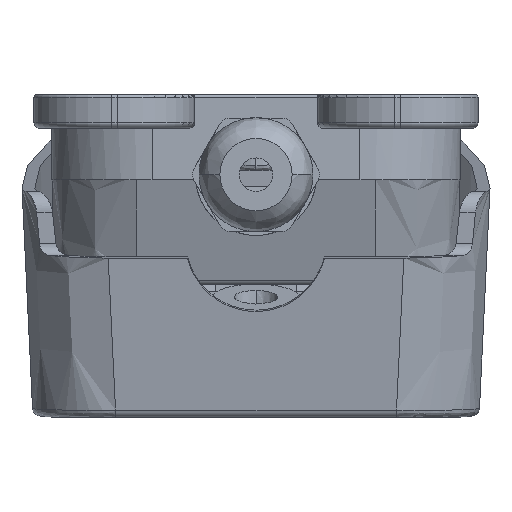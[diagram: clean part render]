
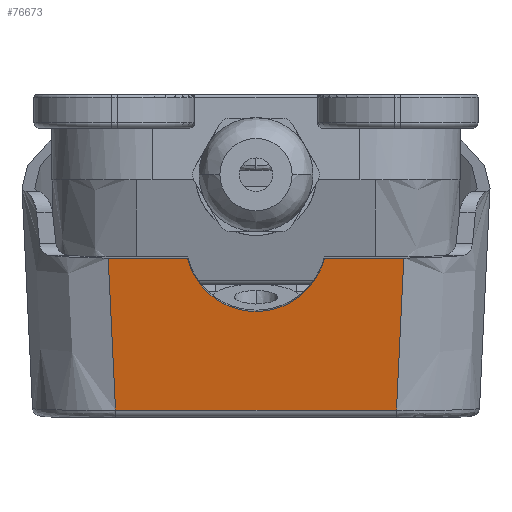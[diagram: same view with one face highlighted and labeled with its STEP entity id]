
A CAD part, front view. The second image highlights one B-rep face of the part: STEP entity #76673.
In plain terms, the highlighted planar face has unit normal (0, -0.99, -0.142) as drawn and (0.999, 0.038, 0) by its records, which use the part's own axes.
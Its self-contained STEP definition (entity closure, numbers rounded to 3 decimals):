
#12921=CARTESIAN_POINT('',(72.251,17.671,25.273));
#29018=DIRECTION('',(0.,0.,-1.));
#29019=VECTOR('',#29018,50.547);
#29020=CARTESIAN_POINT('',(72.251,17.671,25.273));
#29021=LINE('',#29020,#29019);
#29025=CARTESIAN_POINT('',(73.287,-9.925,-26.583));
#29026=CARTESIAN_POINT('',(73.172,-6.86,
-26.438));
#29027=CARTESIAN_POINT('',(72.942,-0.73,
-26.147));
#29028=CARTESIAN_POINT('',(72.597,8.468,
-25.711));
#29029=CARTESIAN_POINT('',(72.366,14.603,
-25.419));
#29030=CARTESIAN_POINT('',(72.251,17.671,
-25.273));
#29035=DIRECTION('',(0.,0.,1.));
#29036=VECTOR('',#29035,14.283);
#29037=CARTESIAN_POINT('',(73.287,-9.925,-26.583));
#29038=LINE('',#29037,#29036);
#29042=CARTESIAN_POINT('',(73.287,-9.925,-12.3));
#29043=CARTESIAN_POINT('',(73.267,-9.391,-12.172));
#29044=CARTESIAN_POINT('',(73.237,-8.585,-11.916));
#29045=CARTESIAN_POINT('',(73.19,-7.337,-11.403));
#29046=CARTESIAN_POINT('',(73.146,-6.179,-10.763));
#29047=CARTESIAN_POINT('',(73.105,-5.087,-9.994));
#29048=CARTESIAN_POINT('',(73.072,-4.196,-9.225));
#29049=CARTESIAN_POINT('',(73.044,-3.448,-8.456));
#29050=CARTESIAN_POINT('',(73.012,-2.602,-7.431));
#29051=CARTESIAN_POINT('',(72.981,-1.775,-6.15));
#29052=CARTESIAN_POINT('',(72.954,-1.058,-4.613));
#29053=CARTESIAN_POINT('',(72.93,-0.408,-2.563));
#29054=CARTESIAN_POINT('',(72.918,-0.103,0.));
#29055=CARTESIAN_POINT('',(72.93,-0.408,2.563));
#29056=CARTESIAN_POINT('',(72.954,-1.058,4.613));
#29057=CARTESIAN_POINT('',(72.981,-1.775,6.15));
#29058=CARTESIAN_POINT('',(73.012,-2.602,7.431));
#29059=CARTESIAN_POINT('',(73.044,-3.448,8.456));
#29060=CARTESIAN_POINT('',(73.072,-4.196,9.225));
#29061=CARTESIAN_POINT('',(73.105,-5.087,9.994));
#29062=CARTESIAN_POINT('',(73.146,-6.179,10.763));
#29063=CARTESIAN_POINT('',(73.19,-7.337,11.403));
#29064=CARTESIAN_POINT('',(73.237,-8.585,11.916));
#29065=CARTESIAN_POINT('',(73.267,-9.391,12.172));
#29066=CARTESIAN_POINT('',(73.287,-9.925,12.3));
#29071=DIRECTION('',(0.,0.,1.));
#29072=VECTOR('',#29071,14.283);
#29073=CARTESIAN_POINT('',(73.287,-9.925,12.3));
#29074=LINE('',#29073,#29072);
#29078=CARTESIAN_POINT('',(72.251,17.671,25.273));
#29079=CARTESIAN_POINT('',(72.366,14.603,25.419));
#29080=CARTESIAN_POINT('',(72.597,8.468,25.711));
#29081=CARTESIAN_POINT('',(72.942,-0.73,
26.147));
#29082=CARTESIAN_POINT('',(73.172,-6.86,
26.438));
#29083=CARTESIAN_POINT('',(73.287,-9.925,26.583));
#45084=VERTEX_POINT('',#29042);
#45085=VERTEX_POINT('',#29066);
#45088=CARTESIAN_POINT('',(73.287,-9.925,-26.583));
#45089=VERTEX_POINT('',#45088);
#45090=CARTESIAN_POINT('',(73.287,-9.925,26.583));
#45091=VERTEX_POINT('',#45090);
#45183=VERTEX_POINT('',#12921);
#45186=CARTESIAN_POINT('',(72.251,17.671,
-25.273));
#45187=VERTEX_POINT('',#45186);
#76658=CARTESIAN_POINT('',(72.203,18.958,50.55));
#76659=DIRECTION('',(-0.999,-0.038,0.));
#76660=DIRECTION('',(0.038,-0.999,0.));
#76661=AXIS2_PLACEMENT_3D('',#76658,#76659,#76660);
#76662=PLANE('',#76661);
#76664=ORIENTED_EDGE('',*,*,#76663,.T.);
#76666=ORIENTED_EDGE('',*,*,#76665,.F.);
#76667=ORIENTED_EDGE('',*,*,#76614,.T.);
#76668=ORIENTED_EDGE('',*,*,#76649,.T.);
#76669=ORIENTED_EDGE('',*,*,#76639,.T.);
#76670=ORIENTED_EDGE('',*,*,#46971,.F.);
#76671=EDGE_LOOP('',(#76664,#76666,#76667,#76668,#76669,#76670));
#76672=FACE_OUTER_BOUND('',#76671,.F.);
#76673=ADVANCED_FACE('',(#76672),#76662,.F.);
#29031=B_SPLINE_CURVE_WITH_KNOTS('',3,(#29025,#29026,#29027,#29028,#29029,
#29030),.UNSPECIFIED.,.F.,.F.,(4,1,1,4),(0.,0.333,
0.667,1.),.UNSPECIFIED.);
#29067=B_SPLINE_CURVE_WITH_KNOTS('',3,(#29042,#29043,#29044,#29045,#29046,
#29047,#29048,#29049,#29050,#29051,#29052,#29053,#29054,#29055,#29056,#29057,
#29058,#29059,#29060,#29061,#29062,#29063,#29064,#29065,#29066),.UNSPECIFIED.,
.F.,.F.,(4,1,1,1,1,1,1,1,1,1,1,1,1,1,1,1,1,1,1,1,1,1,4),(0.,0.016,
0.031,0.063,0.094,0.125,0.156,0.188,0.25,0.313,0.375,
0.5,0.625,0.688,0.75,0.813,0.844,0.875,0.906,0.938,
0.969,0.984,1.),.UNSPECIFIED.);
#29084=B_SPLINE_CURVE_WITH_KNOTS('',3,(#29078,#29079,#29080,#29081,#29082,
#29083),.UNSPECIFIED.,.F.,.F.,(4,1,1,4),(0.,0.333,
0.667,1.),.UNSPECIFIED.);
#46971=EDGE_CURVE('',#45183,#45091,#29084,.T.);
#76614=EDGE_CURVE('',#45089,#45084,#29038,.T.);
#76639=EDGE_CURVE('',#45085,#45091,#29074,.T.);
#76649=EDGE_CURVE('',#45084,#45085,#29067,.T.);
#76663=EDGE_CURVE('',#45183,#45187,#29021,.T.);
#76665=EDGE_CURVE('',#45089,#45187,#29031,.T.);
